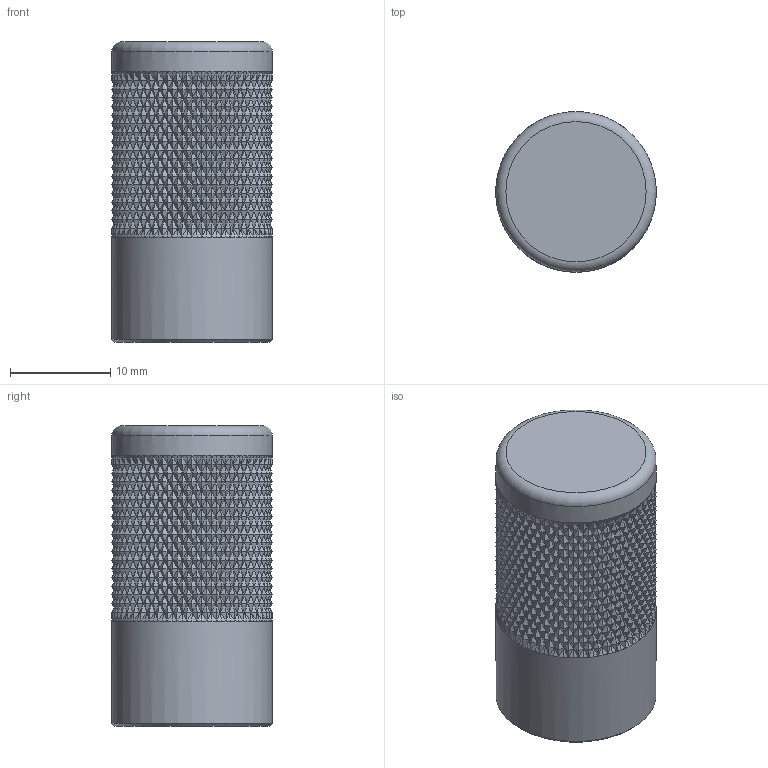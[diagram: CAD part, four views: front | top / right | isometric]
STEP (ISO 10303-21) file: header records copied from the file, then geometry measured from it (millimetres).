
FILE_DESCRIPTION(('Open CASCADE Model'),'2;1');
FILE_NAME('GR-PIN-knob-16','2026-10-19T21:24:01',('Author'),( 'Open CASCADE'),'Open CASCADE STEP processor 8.0','build123d', 'Unknown');
FILE_SCHEMA(('AUTOMOTIVE_DESIGN { 1 0 10303 214 1 1 1 1 }'));
Length unit declared in the file: millimetre
Products named in the file (2): GR-PIN-knob-16; brass_GR-PIN16__k
Assembly tree (1 placements, depth 2):
  GR-PIN-knob-16
    brass_GR-PIN16__k
Bounding box: 16 x 16 x 30 mm (x, y, z)
Volume: 5720.6 mm3; surface area: 2218.7 mm2
Topology: 1 solids, 1 shells, 4010 faces, 6014 edges, 2008 vertices
Faces by surface type: plane 4004, cylinder 4, cone 1, torus 1
Full cylindrical faces by diameter (mm): 3.3 x1, 5.1 x1, 16 x2
Entity records: 151021 total; most frequent: CARTESIAN_POINT 29666, DIRECTION 20671, ORIENTED_EDGE 12028, PCURVE 12028, DEFINITIONAL_REPRESENTATION 12028, LINE 12023, VECTOR 12023, EDGE_CURVE 6014
